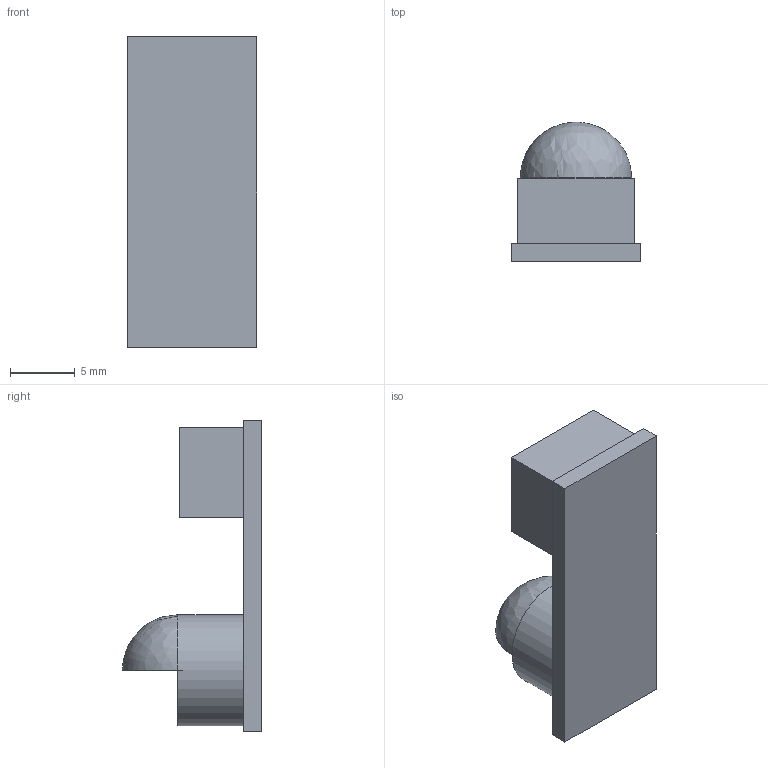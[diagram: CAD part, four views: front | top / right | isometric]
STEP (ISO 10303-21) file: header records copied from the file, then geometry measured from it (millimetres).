
FILE_DESCRIPTION(('Open CASCADE Model'),'2;1');
FILE_NAME('status-led.step','2026-11-14T14:32:02',('Author'),( 'Open CASCADE'),'Open CASCADE STEP processor 8.0','Open CASCADE 8.0' ,'Unknown');
FILE_SCHEMA(('AP242_MANAGED_MODEL_BASED_3D_ENGINEERING_MIM_LF {1 0 10303 442 1 1 4 }' ));
Length unit declared in the file: millimetre
Products named in the file (1): Status LED
Bounding box: 10 x 10.79 x 24 mm (x, y, z)
Volume: 1113.8 mm3; surface area: 1289.4 mm2
Topology: 4 solids, 4 shells, 18 faces, 34 edges, 22 vertices
Faces by surface type: plane 15, cylinder 2, bspline 1
Entity records: 1129 total; most frequent: CARTESIAN_POINT 432, DIRECTION 128, LINE 82, VECTOR 82, ORIENTED_EDGE 64, PCURVE 64, DEFINITIONAL_REPRESENTATION 64, EDGE_CURVE 32
